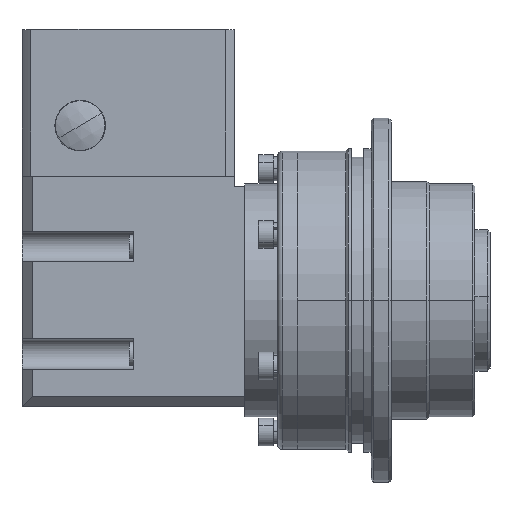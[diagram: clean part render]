
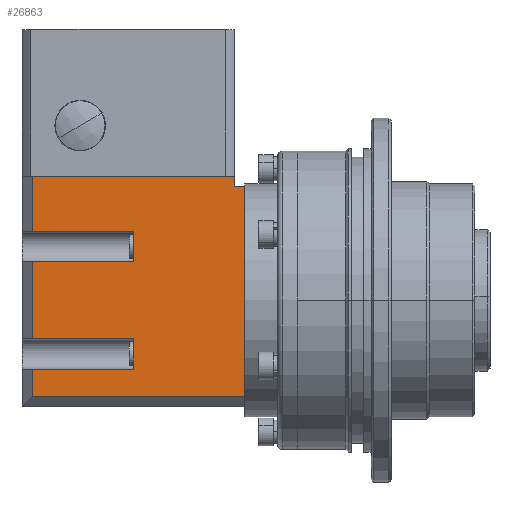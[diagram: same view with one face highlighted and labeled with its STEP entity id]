
A CAD part, top view. The second image highlights one B-rep face of the part: STEP entity #26863.
In plain terms, the highlighted planar face has unit normal (0, 0, 1).
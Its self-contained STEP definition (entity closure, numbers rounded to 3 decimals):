
#55 = CARTESIAN_POINT ( 'NONE',  ( -12.5, 24.5, 21. ) ) ;
#112 = VECTOR ( 'NONE', #9128, 1000. ) ;
#195 = ORIENTED_EDGE ( 'NONE', *, *, #14339, .T. ) ;
#1006 = ORIENTED_EDGE ( 'NONE', *, *, #30852, .T. ) ;
#1251 = LINE ( 'NONE', #2522, #27775 ) ;
#1342 = DIRECTION ( 'NONE',  ( -1., 0., 0. ) ) ;
#1597 = ORIENTED_EDGE ( 'NONE', *, *, #19502, .T. ) ;
#1719 = DIRECTION ( 'NONE',  ( 0., 1., 0. ) ) ;
#1733 = VERTEX_POINT ( 'NONE', #13351 ) ;
#1754 = VECTOR ( 'NONE', #24003, 1000. ) ;
#2522 = CARTESIAN_POINT ( 'NONE',  ( -10.5, -19., 21. ) ) ;
#3028 = LINE ( 'NONE', #9119, #9621 ) ;
#3200 = EDGE_CURVE ( 'NONE', #20909, #21054, #25477, .T. ) ;
#3403 = CARTESIAN_POINT ( 'NONE',  ( -32.5, 27., 21. ) ) ;
#3675 = VECTOR ( 'NONE', #26968, 1000. ) ;
#3691 = VERTEX_POINT ( 'NONE', #17889 ) ;
#3868 = LINE ( 'NONE', #25148, #30443 ) ;
#4435 = CARTESIAN_POINT ( 'NONE',  ( -32.5, 13.625, 21. ) ) ;
#4511 = CARTESIAN_POINT ( 'NONE',  ( -10.5, -21., 21. ) ) ;
#4926 = LINE ( 'NONE', #27120, #30715 ) ;
#5507 = CARTESIAN_POINT ( 'NONE',  ( -54.5, 27., 21. ) ) ;
#6062 = CARTESIAN_POINT ( 'NONE',  ( -52.5, -19., 21. ) ) ;
#6622 = CARTESIAN_POINT ( 'NONE',  ( -52.5, 27., 21. ) ) ;
#6757 = VECTOR ( 'NONE', #29121, 1000. ) ;
#7431 = EDGE_CURVE ( 'NONE', #29420, #8506, #14164, .T. ) ;
#7599 = CARTESIAN_POINT ( 'NONE',  ( -12.5, 22.5, 21. ) ) ;
#7759 = ORIENTED_EDGE ( 'NONE', *, *, #27187, .F. ) ;
#8019 = DIRECTION ( 'NONE',  ( 0., 1., 0. ) ) ;
#8506 = VERTEX_POINT ( 'NONE', #6062 ) ;
#8754 = VECTOR ( 'NONE', #22568, 1000. ) ;
#9057 = CARTESIAN_POINT ( 'NONE',  ( -30.5, 24.5, 21. ) ) ;
#9119 = CARTESIAN_POINT ( 'NONE',  ( -32.5, 27., 21. ) ) ;
#9128 = DIRECTION ( 'NONE',  ( 0., -1., 0. ) ) ;
#9230 = CARTESIAN_POINT ( 'NONE',  ( -52.5, 27., 21. ) ) ;
#9514 = LINE ( 'NONE', #24968, #8754 ) ;
#9529 = ORIENTED_EDGE ( 'NONE', *, *, #24432, .T. ) ;
#9621 = VECTOR ( 'NONE', #1719, 1000. ) ;
#9651 = VECTOR ( 'NONE', #18756, 1000. ) ;
#9688 = CARTESIAN_POINT ( 'NONE',  ( -10.5, 22.5, 21. ) ) ;
#10186 = DIRECTION ( 'NONE',  ( 1., 0., 0. ) ) ;
#10394 = DIRECTION ( 'NONE',  ( 0., -1., 0. ) ) ;
#10443 = LINE ( 'NONE', #11208, #9651 ) ;
#10587 = VERTEX_POINT ( 'NONE', #9688 ) ;
#10706 = FACE_OUTER_BOUND ( 'NONE', #22291, .T. ) ;
#11135 = VERTEX_POINT ( 'NONE', #4435 ) ;
#11208 = CARTESIAN_POINT ( 'NONE',  ( -54.5, 13.625, 21. ) ) ;
#12105 = ORIENTED_EDGE ( 'NONE', *, *, #19093, .T. ) ;
#12127 = DIRECTION ( 'NONE',  ( 0., 1., 0. ) ) ;
#12163 = VECTOR ( 'NONE', #30701, 1000. ) ;
#12504 = DIRECTION ( 'NONE',  ( -1., 0., 0. ) ) ;
#13159 = VERTEX_POINT ( 'NONE', #19959 ) ;
#13351 = CARTESIAN_POINT ( 'NONE',  ( -52.5, 24.5, 21. ) ) ;
#13734 = ORIENTED_EDGE ( 'NONE', *, *, #20384, .T. ) ;
#14000 = ORIENTED_EDGE ( 'NONE', *, *, #17181, .F. ) ;
#14164 = LINE ( 'NONE', #9230, #6757 ) ;
#14269 = CARTESIAN_POINT ( 'NONE',  ( -10.5, -19., 21. ) ) ;
#14283 = VECTOR ( 'NONE', #12504, 1000. ) ;
#14339 = EDGE_CURVE ( 'NONE', #13159, #16196, #20770, .T. ) ;
#14910 = VECTOR ( 'NONE', #10394, 1000. ) ;
#15694 = CARTESIAN_POINT ( 'NONE',  ( -52.5, -13.625, 21. ) ) ;
#16171 = LINE ( 'NONE', #4511, #3675 ) ;
#16196 = VERTEX_POINT ( 'NONE', #18269 ) ;
#17181 = EDGE_CURVE ( 'NONE', #18080, #10587, #3868, .T. ) ;
#17889 = CARTESIAN_POINT ( 'NONE',  ( -52.5, 13.625, 21. ) ) ;
#18080 = VERTEX_POINT ( 'NONE', #7599 ) ;
#18246 = ORIENTED_EDGE ( 'NONE', *, *, #3200, .T. ) ;
#18269 = CARTESIAN_POINT ( 'NONE',  ( -52.5, -7.625, 21. ) ) ;
#18568 = VERTEX_POINT ( 'NONE', #55 ) ;
#18756 = DIRECTION ( 'NONE',  ( 1., 0., 0. ) ) ;
#19093 = EDGE_CURVE ( 'NONE', #25641, #13159, #22500, .T. ) ;
#19502 = EDGE_CURVE ( 'NONE', #18080, #18568, #4926, .T. ) ;
#19940 = DIRECTION ( 'NONE',  ( 1., 0., 0. ) ) ;
#19959 = CARTESIAN_POINT ( 'NONE',  ( -52.5, 7.625, 21. ) ) ;
#19979 = LINE ( 'NONE', #6622, #112 ) ;
#20056 = CARTESIAN_POINT ( 'NONE',  ( -54.5, 7.625, 21. ) ) ;
#20089 = LINE ( 'NONE', #9057, #1754 ) ;
#20184 = EDGE_CURVE ( 'NONE', #1733, #18568, #20089, .T. ) ;
#20353 = CARTESIAN_POINT ( 'NONE',  ( -32.5, -13.625, 21. ) ) ;
#20384 = EDGE_CURVE ( 'NONE', #16196, #20909, #9514, .T. ) ;
#20451 = PLANE ( 'NONE',  #27984 ) ;
#20770 = LINE ( 'NONE', #25351, #14910 ) ;
#20909 = VERTEX_POINT ( 'NONE', #24593 ) ;
#20953 = ORIENTED_EDGE ( 'NONE', *, *, #7431, .T. ) ;
#21054 = VERTEX_POINT ( 'NONE', #20353 ) ;
#21283 = CARTESIAN_POINT ( 'NONE',  ( -54.5, -13.625, 21. ) ) ;
#21804 = EDGE_CURVE ( 'NONE', #21054, #29420, #22306, .T. ) ;
#21833 = CARTESIAN_POINT ( 'NONE',  ( -32.5, 7.625, 21. ) ) ;
#22094 = EDGE_CURVE ( 'NONE', #8506, #26179, #1251, .T. ) ;
#22291 = EDGE_LOOP ( 'NONE', ( #14000, #1597, #25125, #1006, #9529, #23803, #12105, #195, #13734, #18246, #32035, #20953, #27358, #7759 ) ) ;
#22306 = LINE ( 'NONE', #21283, #27398 ) ;
#22500 = LINE ( 'NONE', #20056, #14283 ) ;
#22568 = DIRECTION ( 'NONE',  ( 1., 0., 0. ) ) ;
#22955 = DIRECTION ( 'NONE',  ( 0., 0., -1. ) ) ;
#23803 = ORIENTED_EDGE ( 'NONE', *, *, #25109, .F. ) ;
#24003 = DIRECTION ( 'NONE',  ( 1., 0., 0. ) ) ;
#24432 = EDGE_CURVE ( 'NONE', #3691, #11135, #10443, .T. ) ;
#24593 = CARTESIAN_POINT ( 'NONE',  ( -32.5, -7.625, 21. ) ) ;
#24968 = CARTESIAN_POINT ( 'NONE',  ( -54.5, -7.625, 21. ) ) ;
#25109 = EDGE_CURVE ( 'NONE', #25641, #11135, #3028, .T. ) ;
#25125 = ORIENTED_EDGE ( 'NONE', *, *, #20184, .F. ) ;
#25148 = CARTESIAN_POINT ( 'NONE',  ( -10.5, 22.5, 21. ) ) ;
#25351 = CARTESIAN_POINT ( 'NONE',  ( -52.5, 27., 21. ) ) ;
#25477 = LINE ( 'NONE', #3403, #12163 ) ;
#25641 = VERTEX_POINT ( 'NONE', #21833 ) ;
#26179 = VERTEX_POINT ( 'NONE', #14269 ) ;
#26863 = ADVANCED_FACE ( 'NONE', ( #10706 ), #20451, .F. ) ;
#26968 = DIRECTION ( 'NONE',  ( 0., -1., 0. ) ) ;
#27120 = CARTESIAN_POINT ( 'NONE',  ( -12.5, 22.5, 21. ) ) ;
#27187 = EDGE_CURVE ( 'NONE', #10587, #26179, #16171, .T. ) ;
#27358 = ORIENTED_EDGE ( 'NONE', *, *, #22094, .T. ) ;
#27398 = VECTOR ( 'NONE', #1342, 1000. ) ;
#27775 = VECTOR ( 'NONE', #19940, 1000. ) ;
#27984 = AXIS2_PLACEMENT_3D ( 'NONE', #5507, #22955, #8019 ) ;
#29121 = DIRECTION ( 'NONE',  ( 0., -1., 0. ) ) ;
#29420 = VERTEX_POINT ( 'NONE', #15694 ) ;
#30443 = VECTOR ( 'NONE', #10186, 1000. ) ;
#30701 = DIRECTION ( 'NONE',  ( 0., -1., 0. ) ) ;
#30715 = VECTOR ( 'NONE', #12127, 1000. ) ;
#30852 = EDGE_CURVE ( 'NONE', #1733, #3691, #19979, .T. ) ;
#32035 = ORIENTED_EDGE ( 'NONE', *, *, #21804, .T. ) ;
